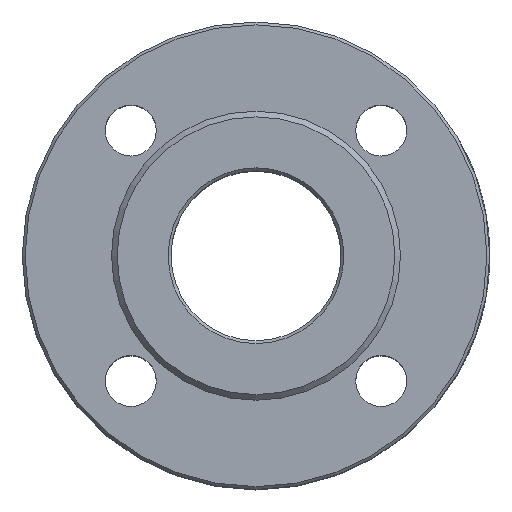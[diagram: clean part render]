
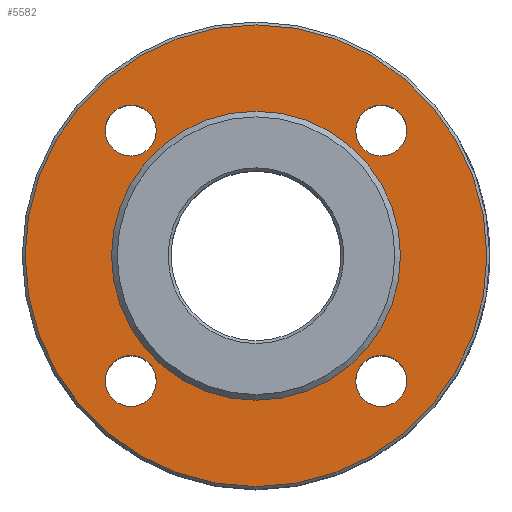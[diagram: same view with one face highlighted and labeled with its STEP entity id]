
A CAD part, top view. The second image highlights one B-rep face of the part: STEP entity #5582.
In plain terms, the highlighted planar face has unit normal (0, 0, 1).
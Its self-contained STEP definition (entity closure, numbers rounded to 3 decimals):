
#230=FACE_BOUND('',#1092,.T.);
#231=FACE_BOUND('',#1093,.T.);
#232=FACE_BOUND('',#1094,.T.);
#233=FACE_BOUND('',#1095,.T.);
#234=FACE_BOUND('',#1096,.T.);
#456=PLANE('',#6073);
#729=FACE_OUTER_BOUND('',#1091,.T.);
#1091=EDGE_LOOP('',(#4721));
#1092=EDGE_LOOP('',(#4722));
#1093=EDGE_LOOP('',(#4723));
#1094=EDGE_LOOP('',(#4724));
#1095=EDGE_LOOP('',(#4725));
#1096=EDGE_LOOP('',(#4726));
#1547=CIRCLE('',#6072,81.5);
#1548=CIRCLE('',#6074,9.);
#1549=CIRCLE('',#6075,9.);
#1550=CIRCLE('',#6076,9.);
#1551=CIRCLE('',#6077,51.);
#1552=CIRCLE('',#6078,9.);
#2642=VERTEX_POINT('',#11802);
#2643=VERTEX_POINT('',#11806);
#2644=VERTEX_POINT('',#11808);
#2645=VERTEX_POINT('',#11810);
#2646=VERTEX_POINT('',#11812);
#2647=VERTEX_POINT('',#11814);
#3347=EDGE_CURVE('',#2642,#2642,#1547,.T.);
#3348=EDGE_CURVE('',#2643,#2643,#1548,.T.);
#3349=EDGE_CURVE('',#2644,#2644,#1549,.T.);
#3350=EDGE_CURVE('',#2645,#2645,#1550,.T.);
#3351=EDGE_CURVE('',#2646,#2646,#1551,.T.);
#3352=EDGE_CURVE('',#2647,#2647,#1552,.T.);
#4721=ORIENTED_EDGE('',*,*,#3347,.T.);
#4722=ORIENTED_EDGE('',*,*,#3348,.T.);
#4723=ORIENTED_EDGE('',*,*,#3349,.T.);
#4724=ORIENTED_EDGE('',*,*,#3350,.T.);
#4725=ORIENTED_EDGE('',*,*,#3351,.T.);
#4726=ORIENTED_EDGE('',*,*,#3352,.T.);
#5582=ADVANCED_FACE('',(#729,#230,#231,#232,#233,#234),#456,.F.);
#6072=AXIS2_PLACEMENT_3D('',#11804,#7313,#7314);
#6073=AXIS2_PLACEMENT_3D('',#11805,#7315,#7316);
#6074=AXIS2_PLACEMENT_3D('',#11807,#7317,#7318);
#6075=AXIS2_PLACEMENT_3D('',#11809,#7319,#7320);
#6076=AXIS2_PLACEMENT_3D('',#11811,#7321,#7322);
#6077=AXIS2_PLACEMENT_3D('',#11813,#7323,#7324);
#6078=AXIS2_PLACEMENT_3D('',#11815,#7325,#7326);
#7313=DIRECTION('center_axis',(0.,0.,1.));
#7314=DIRECTION('ref_axis',(0.,1.,0.));
#7315=DIRECTION('center_axis',(0.,0.,-1.));
#7316=DIRECTION('ref_axis',(-1.,0.,0.));
#7317=DIRECTION('center_axis',(0.,0.,-1.));
#7318=DIRECTION('ref_axis',(-1.,0.,0.));
#7319=DIRECTION('center_axis',(0.,0.,-1.));
#7320=DIRECTION('ref_axis',(-1.,0.,0.));
#7321=DIRECTION('center_axis',(0.,0.,-1.));
#7322=DIRECTION('ref_axis',(-1.,0.,0.));
#7323=DIRECTION('center_axis',(0.,0.,-1.));
#7324=DIRECTION('ref_axis',(1.,0.,0.));
#7325=DIRECTION('center_axis',(0.,0.,-1.));
#7326=DIRECTION('ref_axis',(-1.,0.,0.));
#11802=CARTESIAN_POINT('',(0.,-81.5,53.));
#11804=CARTESIAN_POINT('Origin',(0.,0.,53.));
#11805=CARTESIAN_POINT('Origin',(0.,0.,53.));
#11806=CARTESIAN_POINT('',(-35.194,-44.194,53.));
#11807=CARTESIAN_POINT('Origin',(-44.194,-44.194,53.));
#11808=CARTESIAN_POINT('',(53.194,-44.194,53.));
#11809=CARTESIAN_POINT('Origin',(44.194,-44.194,53.));
#11810=CARTESIAN_POINT('',(53.194,44.194,53.));
#11811=CARTESIAN_POINT('Origin',(44.194,44.194,53.));
#11812=CARTESIAN_POINT('',(-51.,0.,53.));
#11813=CARTESIAN_POINT('Origin',(0.,0.,53.));
#11814=CARTESIAN_POINT('',(-35.194,44.194,53.));
#11815=CARTESIAN_POINT('Origin',(-44.194,44.194,53.));
